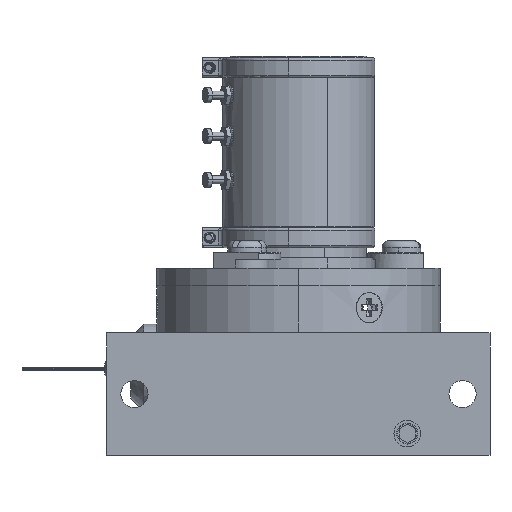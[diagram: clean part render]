
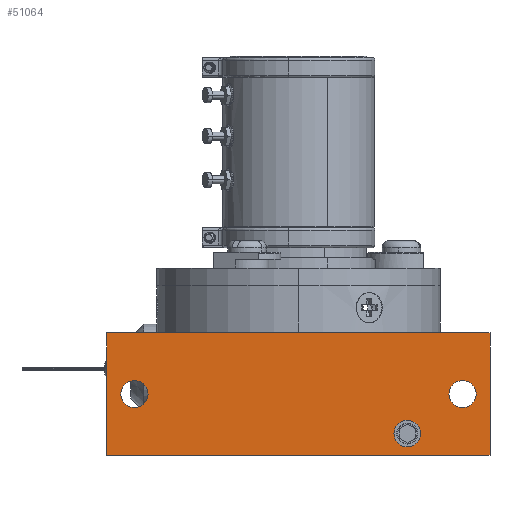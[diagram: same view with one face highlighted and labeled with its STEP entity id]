
A CAD part, front view. The second image highlights one B-rep face of the part: STEP entity #51064.
In plain terms, the highlighted planar face has unit normal (0, -1, 0).
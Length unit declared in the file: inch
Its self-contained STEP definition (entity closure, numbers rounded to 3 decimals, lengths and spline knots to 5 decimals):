
#542 = CARTESIAN_POINT ( 'NONE',  ( 1.095, 0., 0.7 ) ) ;
#704 = EDGE_CURVE ( 'NONE', #37130, #45312, #16561, .T. ) ;
#1893 = EDGE_CURVE ( 'NONE', #2781, #57886, #19481, .T. ) ;
#2085 = EDGE_CURVE ( 'NONE', #34475, #2781, #12710, .T. ) ;
#2720 = CARTESIAN_POINT ( 'NONE',  ( 0.622, 0., 0.125 ) ) ;
#2781 = VERTEX_POINT ( 'NONE', #542 ) ;
#2971 = AXIS2_PLACEMENT_3D ( 'NONE', #19782, #53344, #24638 ) ;
#6466 = CARTESIAN_POINT ( 'NONE',  ( -1.095, 0., 0.7 ) ) ;
#6767 = VECTOR ( 'NONE', #31739, 39.37008 ) ;
#6959 = DIRECTION ( 'NONE',  ( 0., 1., 0. ) ) ;
#7525 = DIRECTION ( 'NONE',  ( 0., 0., -1. ) ) ;
#7908 = CARTESIAN_POINT ( 'NONE',  ( -0.938, 0., 0.272 ) ) ;
#8373 = EDGE_CURVE ( 'NONE', #30225, #53238, #32822, .T. ) ;
#8857 = ORIENTED_EDGE ( 'NONE', *, *, #2085, .F. ) ;
#9303 = ORIENTED_EDGE ( 'NONE', *, *, #41384, .F. ) ;
#10062 = PLANE ( 'NONE',  #22973 ) ;
#10392 = VERTEX_POINT ( 'NONE', #37194 ) ;
#10605 = FACE_BOUND ( 'NONE', #45712, .T. ) ;
#11353 = EDGE_CURVE ( 'NONE', #45312, #37130, #59132, .T. ) ;
#12710 = LINE ( 'NONE', #18442, #36721 ) ;
#13814 = AXIS2_PLACEMENT_3D ( 'NONE', #55398, #26718, #60227 ) ;
#13850 = DIRECTION ( 'NONE',  ( 1., 0., 0. ) ) ;
#14412 = LINE ( 'NONE', #62156, #51178 ) ;
#15076 = DIRECTION ( 'NONE',  ( 0., 1., 0. ) ) ;
#15888 = AXIS2_PLACEMENT_3D ( 'NONE', #36905, #6959, #40722 ) ;
#16561 = CIRCLE ( 'NONE', #15888, 0.078 ) ;
#16708 = AXIS2_PLACEMENT_3D ( 'NONE', #49433, #20697, #54266 ) ;
#18442 = CARTESIAN_POINT ( 'NONE',  ( -1.095, 0., 0.7 ) ) ;
#18997 = ORIENTED_EDGE ( 'NONE', *, *, #34051, .F. ) ;
#19481 = LINE ( 'NONE', #55581, #6767 ) ;
#19782 = CARTESIAN_POINT ( 'NONE',  ( -0.938, 0., 0.35 ) ) ;
#20495 = ORIENTED_EDGE ( 'NONE', *, *, #1893, .F. ) ;
#20697 = DIRECTION ( 'NONE',  ( 0., -1., 0. ) ) ;
#22781 = ORIENTED_EDGE ( 'NONE', *, *, #8373, .F. ) ;
#22808 = DIRECTION ( 'NONE',  ( -1., 0., 0. ) ) ;
#22973 = AXIS2_PLACEMENT_3D ( 'NONE', #43831, #15076, #48587 ) ;
#23341 = FACE_BOUND ( 'NONE', #44209, .T. ) ;
#24638 = DIRECTION ( 'NONE',  ( 0., 0., 1. ) ) ;
#24730 = CARTESIAN_POINT ( 'NONE',  ( 0.938, 0., 0.272 ) ) ;
#24769 = CARTESIAN_POINT ( 'NONE',  ( 0.938, 0., 0.35 ) ) ;
#25070 = EDGE_CURVE ( 'NONE', #10392, #53291, #47877, .T. ) ;
#26685 = CARTESIAN_POINT ( 'NONE',  ( 0.938, 0., 0.428 ) ) ;
#26718 = DIRECTION ( 'NONE',  ( 0., 1., 0. ) ) ;
#29224 = CARTESIAN_POINT ( 'NONE',  ( -1.095, 0., 0. ) ) ;
#29615 = DIRECTION ( 'NONE',  ( 0., 0., 1. ) ) ;
#30225 = VERTEX_POINT ( 'NONE', #44663 ) ;
#31545 = CIRCLE ( 'NONE', #13814, 0.078 ) ;
#31739 = DIRECTION ( 'NONE',  ( 0., 0., -1. ) ) ;
#32822 = CIRCLE ( 'NONE', #16708, 0.076 ) ;
#33513 = DIRECTION ( 'NONE',  ( 0., 0., 1. ) ) ;
#34051 = EDGE_CURVE ( 'NONE', #53238, #30225, #54499, .T. ) ;
#34475 = VERTEX_POINT ( 'NONE', #6466 ) ;
#35375 = LINE ( 'NONE', #29224, #59332 ) ;
#35456 = VERTEX_POINT ( 'NONE', #51409 ) ;
#36276 = DIRECTION ( 'NONE',  ( 0., -1., 0. ) ) ;
#36442 = CARTESIAN_POINT ( 'NONE',  ( 0.622, 0., 0.201 ) ) ;
#36721 = VECTOR ( 'NONE', #13850, 39.37008 ) ;
#36905 = CARTESIAN_POINT ( 'NONE',  ( 0.938, 0., 0.35 ) ) ;
#37130 = VERTEX_POINT ( 'NONE', #26685 ) ;
#37194 = CARTESIAN_POINT ( 'NONE',  ( -0.938, 0., 0.428 ) ) ;
#40722 = DIRECTION ( 'NONE',  ( 0., 0., 1. ) ) ;
#41384 = EDGE_CURVE ( 'NONE', #57886, #35456, #35375, .T. ) ;
#42168 = EDGE_CURVE ( 'NONE', #53291, #10392, #31545, .T. ) ;
#42895 = ORIENTED_EDGE ( 'NONE', *, *, #704, .T. ) ;
#43831 = CARTESIAN_POINT ( 'NONE',  ( 1.095, 0., 0.7 ) ) ;
#44209 = EDGE_LOOP ( 'NONE', ( #22781, #18997 ) ) ;
#44663 = CARTESIAN_POINT ( 'NONE',  ( 0.622, 0., 0.049 ) ) ;
#44664 = ORIENTED_EDGE ( 'NONE', *, *, #42168, .T. ) ;
#45312 = VERTEX_POINT ( 'NONE', #24730 ) ;
#45483 = ORIENTED_EDGE ( 'NONE', *, *, #45696, .F. ) ;
#45696 = EDGE_CURVE ( 'NONE', #35456, #34475, #14412, .T. ) ;
#45712 = EDGE_LOOP ( 'NONE', ( #51242, #44664 ) ) ;
#47877 = CIRCLE ( 'NONE', #2971, 0.078 ) ;
#48587 = DIRECTION ( 'NONE',  ( 0., 0., 1. ) ) ;
#49433 = CARTESIAN_POINT ( 'NONE',  ( 0.622, 0., 0.125 ) ) ;
#50947 = AXIS2_PLACEMENT_3D ( 'NONE', #2720, #36276, #7525 ) ;
#51064 = ADVANCED_FACE ( 'NONE', ( #23341, #61568, #10605, #60093 ), #10062, .F. ) ;
#51178 = VECTOR ( 'NONE', #33513, 39.37008 ) ;
#51242 = ORIENTED_EDGE ( 'NONE', *, *, #25070, .T. ) ;
#51409 = CARTESIAN_POINT ( 'NONE',  ( -1.095, 0., 0. ) ) ;
#52004 = AXIS2_PLACEMENT_3D ( 'NONE', #24769, #58283, #29615 ) ;
#53238 = VERTEX_POINT ( 'NONE', #36442 ) ;
#53291 = VERTEX_POINT ( 'NONE', #7908 ) ;
#53344 = DIRECTION ( 'NONE',  ( 0., 1., 0. ) ) ;
#54266 = DIRECTION ( 'NONE',  ( 0., 0., -1. ) ) ;
#54499 = CIRCLE ( 'NONE', #50947, 0.076 ) ;
#55398 = CARTESIAN_POINT ( 'NONE',  ( -0.938, 0., 0.35 ) ) ;
#55581 = CARTESIAN_POINT ( 'NONE',  ( 1.095, 0., 0.7 ) ) ;
#56848 = ORIENTED_EDGE ( 'NONE', *, *, #11353, .T. ) ;
#57886 = VERTEX_POINT ( 'NONE', #61915 ) ;
#58283 = DIRECTION ( 'NONE',  ( 0., 1., 0. ) ) ;
#59132 = CIRCLE ( 'NONE', #52004, 0.078 ) ;
#59332 = VECTOR ( 'NONE', #22808, 39.37008 ) ;
#59875 = EDGE_LOOP ( 'NONE', ( #8857, #45483, #9303, #20495 ) ) ;
#60093 = FACE_OUTER_BOUND ( 'NONE', #59875, .T. ) ;
#60227 = DIRECTION ( 'NONE',  ( 0., 0., 1. ) ) ;
#61568 = FACE_BOUND ( 'NONE', #61707, .T. ) ;
#61707 = EDGE_LOOP ( 'NONE', ( #42895, #56848 ) ) ;
#61915 = CARTESIAN_POINT ( 'NONE',  ( 1.095, 0., 0. ) ) ;
#62156 = CARTESIAN_POINT ( 'NONE',  ( -1.095, 0., 0. ) ) ;
